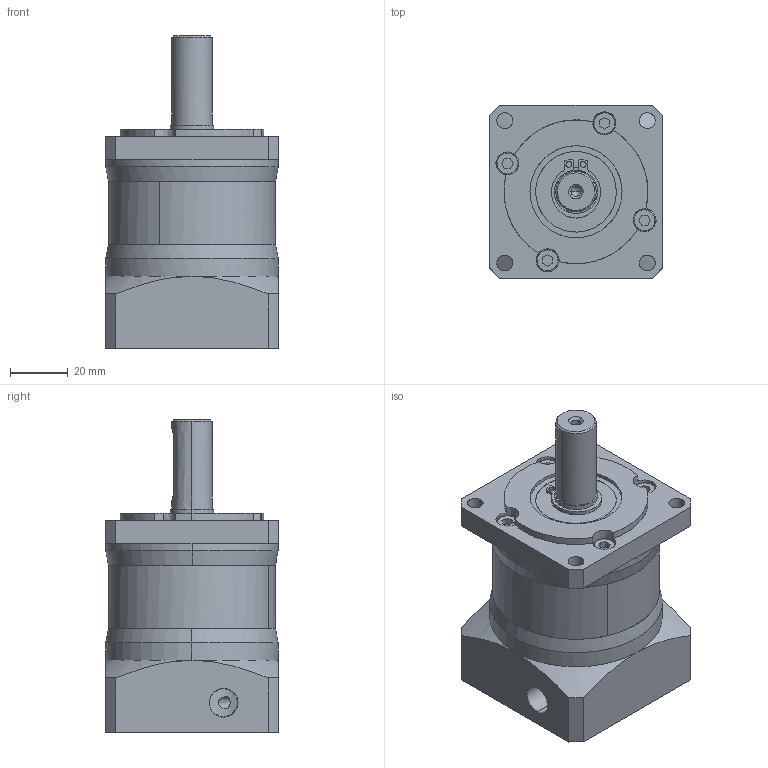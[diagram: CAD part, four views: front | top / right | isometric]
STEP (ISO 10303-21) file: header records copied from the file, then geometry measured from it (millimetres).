
FILE_DESCRIPTION (( 'STEP AP214' ), '1' );
FILE_NAME ('SPLF60-L1MA.STEP', '2021-12-04T02:19:52', ( '微软用户' ), ( '微软中国' ), 'SwSTEP 2.0', 'SolidWorks 2020', '' );
FILE_SCHEMA (( 'AUTOMOTIVE_DESIGN' ));
Length unit declared in the file: millimetre
Products named in the file (10): SPLF60-L1MA.igs; 60齿圈1.igs; M4内六角螺丝头 - 副本.igs; M5囀鞠褒蹟佪芛 -.igs; SPLF60-L1MA; SPLF60怀堤楊擘.igs; 伺服60输入轴.igs; SPLF60输入法兰MA.igs; 15俋縐.igs; 6903.igs
Assembly tree (17 placements, depth 3):
  SPLF60-L1MA
    SPLF60-L1MA.igs
      60齿圈1.igs
      SPLF60怀堤楊擘.igs
      15俋縐.igs
      M4内六角螺丝头 - 副本.igs  x8
      伺服60输入轴.igs
      6903.igs
      M5囀鞠褒蹟佪芛 -.igs  x2
      SPLF60输入法兰MA.igs
Bounding box: 60 x 60 x 108.5 mm (x, y, z)
Volume: 206211.1 mm3; surface area: 56276.8 mm2
Topology: 16 solids, 16 shells, 418 faces, 985 edges, 627 vertices
Faces by surface type: bspline 418
Entity records: 14811 total; most frequent: CARTESIAN_POINT 9551, ORIENTED_EDGE 1502, EDGE_CURVE 751, B_SPLINE_CURVE_WITH_KNOTS 507, VERTEX_POINT 483, EDGE_LOOP 386, ADVANCED_FACE 314, FACE_OUTER_BOUND 314
